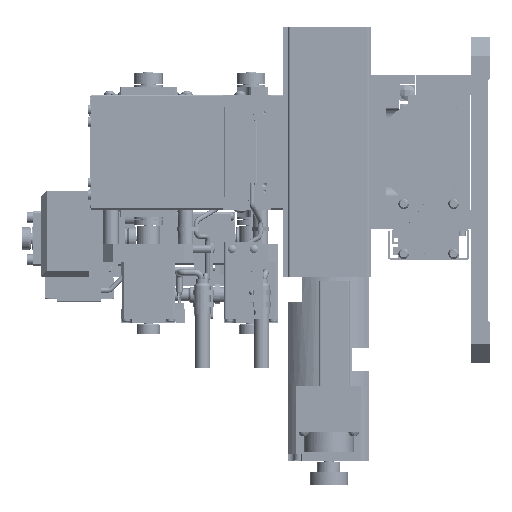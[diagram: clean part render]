
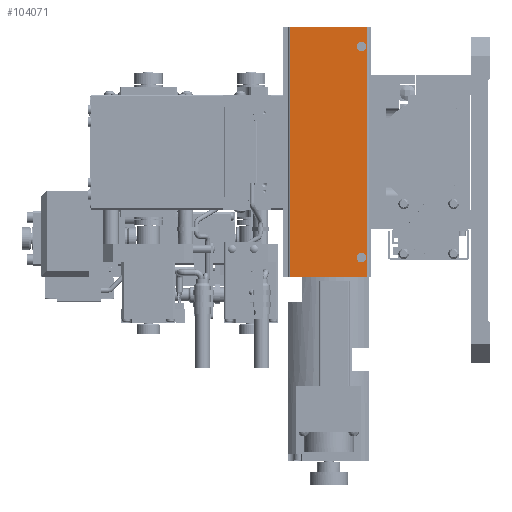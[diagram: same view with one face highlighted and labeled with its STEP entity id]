
A CAD part, left-side view. The second image highlights one B-rep face of the part: STEP entity #104071.
In plain terms, the highlighted planar face has unit normal (-1, 0, 0) as drawn and (0, 1, 0) by its records, which use the part's own axes.
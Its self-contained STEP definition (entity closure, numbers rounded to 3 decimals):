
#3591 = VECTOR ( 'NONE', #177358, 1000. ) ;
#4145 = VECTOR ( 'NONE', #11096, 1000. ) ;
#5715 = EDGE_CURVE ( 'NONE', #44884, #129951, #49564, .T. ) ;
#6805 = CARTESIAN_POINT ( 'NONE',  ( 0., 56., 23.75 ) ) ;
#7742 = CARTESIAN_POINT ( 'NONE',  ( -65., 56., 23.75 ) ) ;
#8165 = CARTESIAN_POINT ( 'NONE',  ( 55., 56., -10.75 ) ) ;
#9382 = EDGE_CURVE ( 'NONE', #24476, #56680, #12359, .T. ) ;
#11096 = DIRECTION ( 'NONE',  ( -1., 0., 0. ) ) ;
#12359 = CIRCLE ( 'NONE', #182213, 2.5 ) ;
#16420 = AXIS2_PLACEMENT_3D ( 'NONE', #204894, #188378, #141280 ) ;
#23948 = VERTEX_POINT ( 'NONE', #7742 ) ;
#24476 = VERTEX_POINT ( 'NONE', #148938 ) ;
#29811 = CARTESIAN_POINT ( 'NONE',  ( -55., 56., -13.25 ) ) ;
#32284 = VERTEX_POINT ( 'NONE', #178951 ) ;
#32627 = AXIS2_PLACEMENT_3D ( 'NONE', #29811, #91854, #44269 ) ;
#39524 = EDGE_CURVE ( 'NONE', #56680, #24476, #131282, .T. ) ;
#42036 = CARTESIAN_POINT ( 'NONE',  ( 0., 56., -16.25 ) ) ;
#44269 = DIRECTION ( 'NONE',  ( 0., 0., -1. ) ) ;
#44884 = VERTEX_POINT ( 'NONE', #108555 ) ;
#46601 = EDGE_LOOP ( 'NONE', ( #132437, #165605, #60500, #154486 ) ) ;
#49564 = CIRCLE ( 'NONE', #16420, 2.5 ) ;
#54856 = LINE ( 'NONE', #166649, #101699 ) ;
#55524 = DIRECTION ( 'NONE',  ( 0., 0., 1. ) ) ;
#56680 = VERTEX_POINT ( 'NONE', #8165 ) ;
#57975 = CIRCLE ( 'NONE', #32627, 2.5 ) ;
#58358 = DIRECTION ( 'NONE',  ( -1., 0., 0. ) ) ;
#60500 = ORIENTED_EDGE ( 'NONE', *, *, #105000, .T. ) ;
#61319 = EDGE_CURVE ( 'NONE', #32284, #105709, #54856, .T. ) ;
#69248 = DIRECTION ( 'NONE',  ( 0., -1., 0. ) ) ;
#85754 = LINE ( 'NONE', #42036, #4145 ) ;
#91285 = ORIENTED_EDGE ( 'NONE', *, *, #9382, .T. ) ;
#91854 = DIRECTION ( 'NONE',  ( 0., -1., 0. ) ) ;
#95720 = EDGE_LOOP ( 'NONE', ( #91285, #136259 ) ) ;
#97084 = DIRECTION ( 'NONE',  ( 0., 0., -1. ) ) ;
#101699 = VECTOR ( 'NONE', #55524, 1000. ) ;
#102311 = CARTESIAN_POINT ( 'NONE',  ( 55., 56., -13.25 ) ) ;
#104071 = ADVANCED_FACE ( 'NONE', ( #141871, #154400, #181648 ), #107952, .T. ) ;
#105000 = EDGE_CURVE ( 'NONE', #32284, #139199, #85754, .T. ) ;
#105709 = VERTEX_POINT ( 'NONE', #106288 ) ;
#106288 = CARTESIAN_POINT ( 'NONE',  ( 65., 56., 23.75 ) ) ;
#107664 = LINE ( 'NONE', #6805, #186847 ) ;
#107952 = PLANE ( 'NONE',  #181969 ) ;
#108555 = CARTESIAN_POINT ( 'NONE',  ( -55., 56., -10.75 ) ) ;
#112449 = CARTESIAN_POINT ( 'NONE',  ( -65., 56., -16.25 ) ) ;
#113359 = EDGE_LOOP ( 'NONE', ( #137590, #127492 ) ) ;
#113449 = EDGE_CURVE ( 'NONE', #23948, #105709, #107664, .T. ) ;
#119784 = EDGE_CURVE ( 'NONE', #23948, #139199, #154249, .T. ) ;
#123877 = CARTESIAN_POINT ( 'NONE',  ( 0., 56., 3.75 ) ) ;
#127492 = ORIENTED_EDGE ( 'NONE', *, *, #5715, .T. ) ;
#128235 = CARTESIAN_POINT ( 'NONE',  ( 55., 56., -13.25 ) ) ;
#129951 = VERTEX_POINT ( 'NONE', #192965 ) ;
#131282 = CIRCLE ( 'NONE', #147179, 2.5 ) ;
#132052 = DIRECTION ( 'NONE',  ( 0., 0., -1. ) ) ;
#132437 = ORIENTED_EDGE ( 'NONE', *, *, #113449, .T. ) ;
#136259 = ORIENTED_EDGE ( 'NONE', *, *, #39524, .T. ) ;
#137026 = DIRECTION ( 'NONE',  ( 0., 1., 0. ) ) ;
#137590 = ORIENTED_EDGE ( 'NONE', *, *, #156606, .T. ) ;
#139199 = VERTEX_POINT ( 'NONE', #112449 ) ;
#141280 = DIRECTION ( 'NONE',  ( 0., 0., -1. ) ) ;
#141871 = FACE_BOUND ( 'NONE', #95720, .T. ) ;
#144100 = DIRECTION ( 'NONE',  ( 0., -1., 0. ) ) ;
#147179 = AXIS2_PLACEMENT_3D ( 'NONE', #128235, #144100, #97084 ) ;
#148938 = CARTESIAN_POINT ( 'NONE',  ( 55., 56., -15.75 ) ) ;
#154249 = LINE ( 'NONE', #178762, #3591 ) ;
#154400 = FACE_OUTER_BOUND ( 'NONE', #46601, .T. ) ;
#154486 = ORIENTED_EDGE ( 'NONE', *, *, #119784, .F. ) ;
#156606 = EDGE_CURVE ( 'NONE', #129951, #44884, #57975, .T. ) ;
#163425 = DIRECTION ( 'NONE',  ( 1., 0., 0. ) ) ;
#165605 = ORIENTED_EDGE ( 'NONE', *, *, #61319, .F. ) ;
#166649 = CARTESIAN_POINT ( 'NONE',  ( 65., 56., -18.25 ) ) ;
#177358 = DIRECTION ( 'NONE',  ( 0., 0., -1. ) ) ;
#178762 = CARTESIAN_POINT ( 'NONE',  ( -65., 56., -18.25 ) ) ;
#178951 = CARTESIAN_POINT ( 'NONE',  ( 65., 56., -16.25 ) ) ;
#181648 = FACE_BOUND ( 'NONE', #113359, .T. ) ;
#181969 = AXIS2_PLACEMENT_3D ( 'NONE', #123877, #137026, #58358 ) ;
#182213 = AXIS2_PLACEMENT_3D ( 'NONE', #102311, #69248, #132052 ) ;
#186847 = VECTOR ( 'NONE', #163425, 1000. ) ;
#188378 = DIRECTION ( 'NONE',  ( 0., -1., 0. ) ) ;
#192965 = CARTESIAN_POINT ( 'NONE',  ( -55., 56., -15.75 ) ) ;
#204894 = CARTESIAN_POINT ( 'NONE',  ( -55., 56., -13.25 ) ) ;
